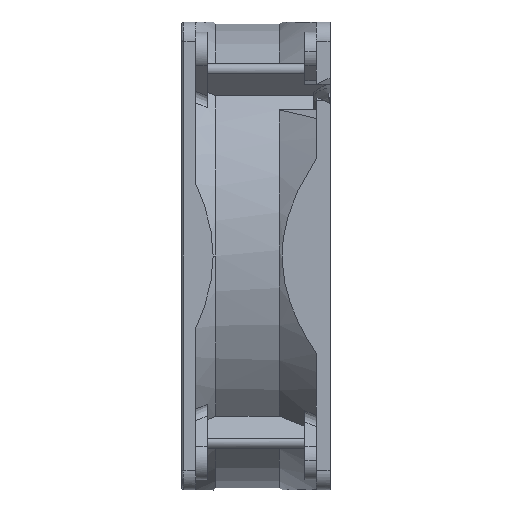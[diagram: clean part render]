
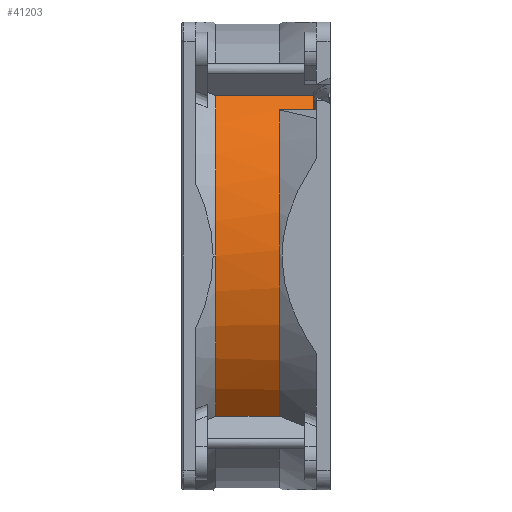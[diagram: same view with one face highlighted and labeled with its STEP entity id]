
A CAD part, left-side view. The second image highlights one B-rep face of the part: STEP entity #41203.
In plain terms, the highlighted cylindrical face has radius 59.6 mm (diameter 119.2 mm), a partial arc.
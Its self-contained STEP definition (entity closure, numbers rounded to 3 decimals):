
#63 = CARTESIAN_POINT ( 'NONE',  ( -59.696, 0.702, 1.184 ) ) ;
#222 = CARTESIAN_POINT ( 'NONE',  ( 0., 17.06, 0. ) ) ;
#468 = CARTESIAN_POINT ( 'NONE',  ( -46.342, -8.1, 37.478 ) ) ;
#1591 = AXIS2_PLACEMENT_3D ( 'NONE', #17185, #35723, #39483 ) ;
#3642 = CARTESIAN_POINT ( 'NONE',  ( -48.592, 0.702, 34.696 ) ) ;
#3803 = CARTESIAN_POINT ( 'NONE',  ( -58.943, 0.702, -9.524 ) ) ;
#3942 = DIRECTION ( 'NONE',  ( 1., 0., 0. ) ) ;
#5172 = EDGE_LOOP ( 'NONE', ( #44872, #12285, #9213, #22736, #45401, #45258, #29945 ) ) ;
#5764 = CYLINDRICAL_SURFACE ( 'NONE', #1591, 59.6 ) ;
#5996 = CARTESIAN_POINT ( 'NONE',  ( -43.191, 23.75, -41.07 ) ) ;
#6470 = LINE ( 'NONE', #27670, #16345 ) ;
#6942 = FACE_OUTER_BOUND ( 'NONE', #5172, .T. ) ;
#7522 = CARTESIAN_POINT ( 'NONE',  ( -56.285, 0.703, -19.924 ) ) ;
#8476 = CARTESIAN_POINT ( 'NONE',  ( -46.342, -8.1, 37.478 ) ) ;
#9213 = ORIENTED_EDGE ( 'NONE', *, *, #35108, .T. ) ;
#9632 = VERTEX_POINT ( 'NONE', #11068 ) ;
#9652 = CIRCLE ( 'NONE', #35943, 59.6 ) ;
#11068 = CARTESIAN_POINT ( 'NONE',  ( -43.191, 0.703, -41.07 ) ) ;
#11251 = CARTESIAN_POINT ( 'NONE',  ( -51.807, 0.703, -29.681 ) ) ;
#12285 = ORIENTED_EDGE ( 'NONE', *, *, #26489, .F. ) ;
#13015 = CARTESIAN_POINT ( 'NONE',  ( 0., 17.06, 0. ) ) ;
#14793 = CARTESIAN_POINT ( 'NONE',  ( -54.019, 0.702, 25.435 ) ) ;
#14962 = CARTESIAN_POINT ( 'NONE',  ( -45.655, 0.703, -38.478 ) ) ;
#15004 = VECTOR ( 'NONE', #46960, 1000. ) ;
#16300 = DIRECTION ( 'NONE',  ( 0., 1., 0. ) ) ;
#16345 = VECTOR ( 'NONE', #16300, 1000. ) ;
#16729 = DIRECTION ( 'NONE',  ( 1., 0., 0. ) ) ;
#17185 = CARTESIAN_POINT ( 'NONE',  ( 0., 23.75, 0. ) ) ;
#17455 = CARTESIAN_POINT ( 'NONE',  ( -43.191, 17.06, 41.07 ) ) ;
#17461 = CARTESIAN_POINT ( 'NONE',  ( -46.342, 0.702, 37.477 ) ) ;
#18560 = CARTESIAN_POINT ( 'NONE',  ( -57.701, 0.702, 15.351 ) ) ;
#18630 = B_SPLINE_CURVE_WITH_KNOTS ( 'NONE', 3,
 ( #25859, #3642, #37093, #14793, #40836, #18560, #44549, #22307, #63, #26021, #3803, #29789, #7522, #33513, #11251, #37262, #14962, #40994 ),
 .UNSPECIFIED., .F., .F.,
 ( 4, 2, 2, 2, 2, 2, 2, 2, 4 ),
 ( 0., 0.125, 0.25, 0.375, 0.5, 0.625, 0.75, 0.875, 1. ),
 .UNSPECIFIED. ) ;
#20265 = CIRCLE ( 'NONE', #34831, 59.6 ) ;
#20305 = EDGE_CURVE ( 'NONE', #44826, #29685, #20265, .T. ) ;
#20852 = CARTESIAN_POINT ( 'NONE',  ( -43.191, 17.06, -41.07 ) ) ;
#21190 = VERTEX_POINT ( 'NONE', #17461 ) ;
#22307 = CARTESIAN_POINT ( 'NONE',  ( -59.517, 0.702, 4.771 ) ) ;
#22736 = ORIENTED_EDGE ( 'NONE', *, *, #41043, .F. ) ;
#23270 = CARTESIAN_POINT ( 'NONE',  ( -44.289, -8.1, 39.914 ) ) ;
#24025 = LINE ( 'NONE', #27574, #30402 ) ;
#24888 = LINE ( 'NONE', #5996, #15004 ) ;
#25859 = CARTESIAN_POINT ( 'NONE',  ( -46.342, 0.702, 37.477 ) ) ;
#26021 = CARTESIAN_POINT ( 'NONE',  ( -59.409, 0.702, -5.963 ) ) ;
#26122 = B_SPLINE_CURVE_WITH_KNOTS ( 'NONE', 3,
 ( #26980, #23270, #30728, #8476 ),
 .UNSPECIFIED., .F., .F.,
 ( 4, 4 ),
 ( 0., 1. ),
 .UNSPECIFIED. ) ;
#26172 = DIRECTION ( 'NONE',  ( 0., -1., 0. ) ) ;
#26422 = VERTEX_POINT ( 'NONE', #42960 ) ;
#26489 = EDGE_CURVE ( 'NONE', #21190, #9632, #18630, .T. ) ;
#26980 = CARTESIAN_POINT ( 'NONE',  ( -43.191, -8.1, 41.07 ) ) ;
#27574 = CARTESIAN_POINT ( 'NONE',  ( -46.342, 23.75, 37.478 ) ) ;
#27670 = CARTESIAN_POINT ( 'NONE',  ( -43.191, 0., 41.07 ) ) ;
#29579 = EDGE_CURVE ( 'NONE', #26422, #47853, #6470, .T. ) ;
#29685 = VERTEX_POINT ( 'NONE', #20852 ) ;
#29789 = CARTESIAN_POINT ( 'NONE',  ( -57.381, 0.702, -16.505 ) ) ;
#29945 = ORIENTED_EDGE ( 'NONE', *, *, #20305, .T. ) ;
#30402 = VECTOR ( 'NONE', #31339, 1000. ) ;
#30728 = CARTESIAN_POINT ( 'NONE',  ( -45.34, -8.1, 38.717 ) ) ;
#31339 = DIRECTION ( 'NONE',  ( 0., -1., 0. ) ) ;
#32509 = CARTESIAN_POINT ( 'NONE',  ( -59.6, 17.06, 0. ) ) ;
#33513 = CARTESIAN_POINT ( 'NONE',  ( -53.498, 0.703, -26.513 ) ) ;
#34831 = AXIS2_PLACEMENT_3D ( 'NONE', #222, #26172, #3942 ) ;
#35108 = EDGE_CURVE ( 'NONE', #21190, #45312, #24025, .T. ) ;
#35723 = DIRECTION ( 'NONE',  ( 0., -1., 0. ) ) ;
#35943 = AXIS2_PLACEMENT_3D ( 'NONE', #13015, #39042, #16729 ) ;
#37093 = CARTESIAN_POINT ( 'NONE',  ( -50.59, 0.702, 31.712 ) ) ;
#37262 = CARTESIAN_POINT ( 'NONE',  ( -47.886, 0.703, -35.663 ) ) ;
#39042 = DIRECTION ( 'NONE',  ( 0., -1., 0. ) ) ;
#39483 = DIRECTION ( 'NONE',  ( 1., 0., 0. ) ) ;
#40836 = CARTESIAN_POINT ( 'NONE',  ( -55.451, 0.702, 22.141 ) ) ;
#40994 = CARTESIAN_POINT ( 'NONE',  ( -43.191, 0.703, -41.07 ) ) ;
#41043 = EDGE_CURVE ( 'NONE', #26422, #45312, #26122, .T. ) ;
#41203 = ADVANCED_FACE ( 'NONE', ( #6942 ), #5764, .T. ) ;
#42960 = CARTESIAN_POINT ( 'NONE',  ( -43.191, -8.1, 41.07 ) ) ;
#44549 = CARTESIAN_POINT ( 'NONE',  ( -58.519, 0.702, 11.854 ) ) ;
#44826 = VERTEX_POINT ( 'NONE', #32509 ) ;
#44872 = ORIENTED_EDGE ( 'NONE', *, *, #47998, .T. ) ;
#45258 = ORIENTED_EDGE ( 'NONE', *, *, #45794, .T. ) ;
#45312 = VERTEX_POINT ( 'NONE', #468 ) ;
#45401 = ORIENTED_EDGE ( 'NONE', *, *, #29579, .T. ) ;
#45794 = EDGE_CURVE ( 'NONE', #47853, #44826, #9652, .T. ) ;
#46960 = DIRECTION ( 'NONE',  ( 0., -1., 0. ) ) ;
#47853 = VERTEX_POINT ( 'NONE', #17455 ) ;
#47998 = EDGE_CURVE ( 'NONE', #29685, #9632, #24888, .T. ) ;
